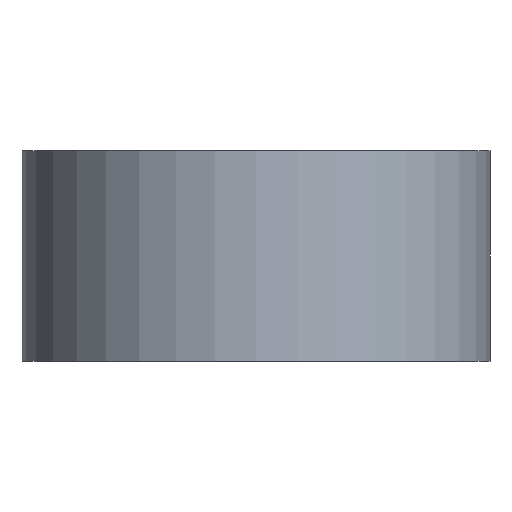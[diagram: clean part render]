
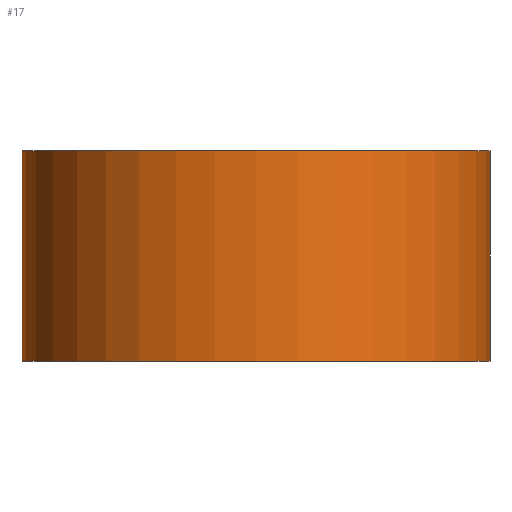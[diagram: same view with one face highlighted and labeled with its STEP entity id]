
A CAD part, front view. The second image highlights one B-rep face of the part: STEP entity #17.
In plain terms, the highlighted cylindrical face has radius 44.45 mm (diameter 88.9 mm), a full revolution.
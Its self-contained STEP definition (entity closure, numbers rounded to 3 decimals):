
#17 = ADVANCED_FACE('',(#18),#32,.T.);
#18 = FACE_BOUND('',#19,.F.);
#19 = EDGE_LOOP('',(#20,#50,#77,#78));
#20 = ORIENTED_EDGE('',*,*,#21,.T.);
#21 = EDGE_CURVE('',#22,#24,#26,.T.);
#22 = VERTEX_POINT('',#23);
#23 = CARTESIAN_POINT('',(44.45,0.,-439.));
#24 = VERTEX_POINT('',#25);
#25 = CARTESIAN_POINT('',(44.45,0.,-398.987));
#26 = SEAM_CURVE('',#27,(#31,#43),.PCURVE_S1.);
#27 = LINE('',#28,#29);
#28 = CARTESIAN_POINT('',(44.45,0.,-439.));
#29 = VECTOR('',#30,1.);
#30 = DIRECTION('',(0.,0.,1.));
#31 = PCURVE('',#32,#37);
#32 = CYLINDRICAL_SURFACE('',#33,44.45);
#33 = AXIS2_PLACEMENT_3D('',#34,#35,#36);
#34 = CARTESIAN_POINT('',(0.,0.,-439.));
#35 = DIRECTION('',(-0.,-0.,-1.));
#36 = DIRECTION('',(1.,0.,0.));
#37 = DEFINITIONAL_REPRESENTATION('',(#38),#42);
#38 = LINE('',#39,#40);
#39 = CARTESIAN_POINT('',(-0.,0.));
#40 = VECTOR('',#41,1.);
#41 = DIRECTION('',(-0.,-1.));
#42 = ( GEOMETRIC_REPRESENTATION_CONTEXT(2) 
PARAMETRIC_REPRESENTATION_CONTEXT() REPRESENTATION_CONTEXT('2D SPACE',''
  ) );
#43 = PCURVE('',#32,#44);
#44 = DEFINITIONAL_REPRESENTATION('',(#45),#49);
#45 = LINE('',#46,#47);
#46 = CARTESIAN_POINT('',(-6.283,0.));
#47 = VECTOR('',#48,1.);
#48 = DIRECTION('',(-0.,-1.));
#49 = ( GEOMETRIC_REPRESENTATION_CONTEXT(2) 
PARAMETRIC_REPRESENTATION_CONTEXT() REPRESENTATION_CONTEXT('2D SPACE',''
  ) );
#50 = ORIENTED_EDGE('',*,*,#51,.T.);
#51 = EDGE_CURVE('',#24,#24,#52,.T.);
#52 = SURFACE_CURVE('',#53,(#58,#65),.PCURVE_S1.);
#53 = CIRCLE('',#54,44.45);
#54 = AXIS2_PLACEMENT_3D('',#55,#56,#57);
#55 = CARTESIAN_POINT('',(0.,0.,-398.987));
#56 = DIRECTION('',(0.,0.,1.));
#57 = DIRECTION('',(1.,0.,0.));
#58 = PCURVE('',#32,#59);
#59 = DEFINITIONAL_REPRESENTATION('',(#60),#64);
#60 = LINE('',#61,#62);
#61 = CARTESIAN_POINT('',(-0.,-40.013));
#62 = VECTOR('',#63,1.);
#63 = DIRECTION('',(-1.,0.));
#64 = ( GEOMETRIC_REPRESENTATION_CONTEXT(2) 
PARAMETRIC_REPRESENTATION_CONTEXT() REPRESENTATION_CONTEXT('2D SPACE',''
  ) );
#65 = PCURVE('',#66,#71);
#66 = PLANE('',#67);
#67 = AXIS2_PLACEMENT_3D('',#68,#69,#70);
#68 = CARTESIAN_POINT('',(0.,0.,
    -398.987));
#69 = DIRECTION('',(0.,0.,1.));
#70 = DIRECTION('',(1.,0.,-0.));
#71 = DEFINITIONAL_REPRESENTATION('',(#72),#76);
#72 = CIRCLE('',#73,44.45);
#73 = AXIS2_PLACEMENT_2D('',#74,#75);
#74 = CARTESIAN_POINT('',(0.,0.));
#75 = DIRECTION('',(1.,0.));
#76 = ( GEOMETRIC_REPRESENTATION_CONTEXT(2) 
PARAMETRIC_REPRESENTATION_CONTEXT() REPRESENTATION_CONTEXT('2D SPACE',''
  ) );
#77 = ORIENTED_EDGE('',*,*,#21,.F.);
#78 = ORIENTED_EDGE('',*,*,#79,.F.);
#79 = EDGE_CURVE('',#22,#22,#80,.T.);
#80 = SURFACE_CURVE('',#81,(#86,#93),.PCURVE_S1.);
#81 = CIRCLE('',#82,44.45);
#82 = AXIS2_PLACEMENT_3D('',#83,#84,#85);
#83 = CARTESIAN_POINT('',(0.,0.,-439.));
#84 = DIRECTION('',(0.,0.,1.));
#85 = DIRECTION('',(1.,0.,0.));
#86 = PCURVE('',#32,#87);
#87 = DEFINITIONAL_REPRESENTATION('',(#88),#92);
#88 = LINE('',#89,#90);
#89 = CARTESIAN_POINT('',(-0.,0.));
#90 = VECTOR('',#91,1.);
#91 = DIRECTION('',(-1.,0.));
#92 = ( GEOMETRIC_REPRESENTATION_CONTEXT(2) 
PARAMETRIC_REPRESENTATION_CONTEXT() REPRESENTATION_CONTEXT('2D SPACE',''
  ) );
#93 = PCURVE('',#94,#99);
#94 = PLANE('',#95);
#95 = AXIS2_PLACEMENT_3D('',#96,#97,#98);
#96 = CARTESIAN_POINT('',(0.,0.,-439.)
  );
#97 = DIRECTION('',(0.,0.,1.));
#98 = DIRECTION('',(1.,0.,-0.));
#99 = DEFINITIONAL_REPRESENTATION('',(#100),#104);
#100 = CIRCLE('',#101,44.45);
#101 = AXIS2_PLACEMENT_2D('',#102,#103);
#102 = CARTESIAN_POINT('',(0.,0.));
#103 = DIRECTION('',(1.,0.));
#104 = ( GEOMETRIC_REPRESENTATION_CONTEXT(2) 
PARAMETRIC_REPRESENTATION_CONTEXT() REPRESENTATION_CONTEXT('2D SPACE',''
  ) );
